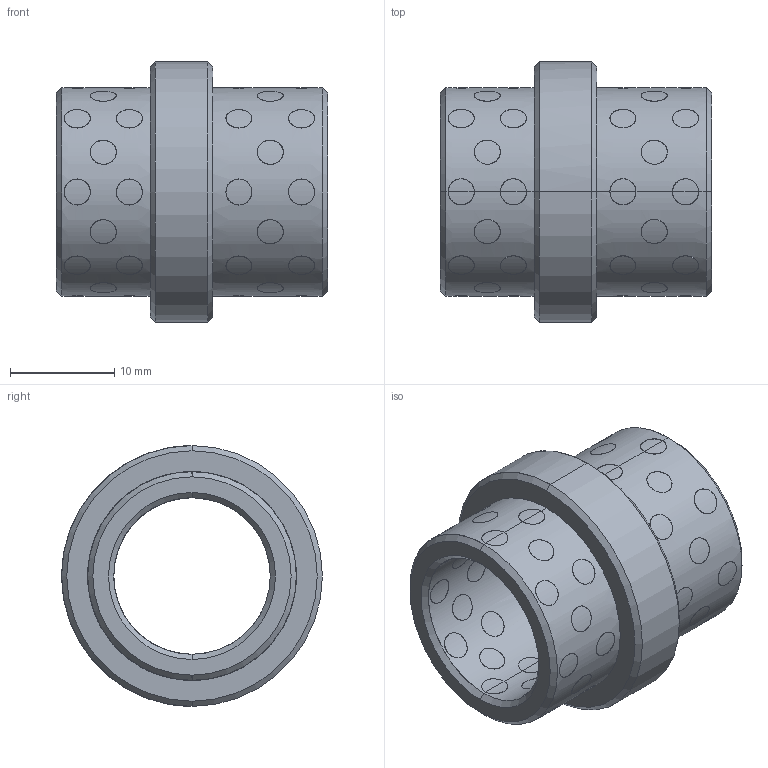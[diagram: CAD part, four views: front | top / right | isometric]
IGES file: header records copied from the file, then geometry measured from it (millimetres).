
Start section: START RECORD GO HERE.
Global section: file name: G3131517.igs; native system: DASSAULT SYSTEMES CATIA V5 R20 - www.3ds.com; preprocessor: CATIA Version 5 Release 20 ; author: r.borello; organization: CFTORINO; date: 20190624.134957; units: millimetre
Bounding box: 26 x 25 x 25 mm (x, y, z)
Surface area: 5353.8 mm2 (no closed solid volume)
Topology: 0 solids, 0 shells, 328 faces, 1440 edges, 1440 vertices
Faces by surface type: revolution 324, plane 4
